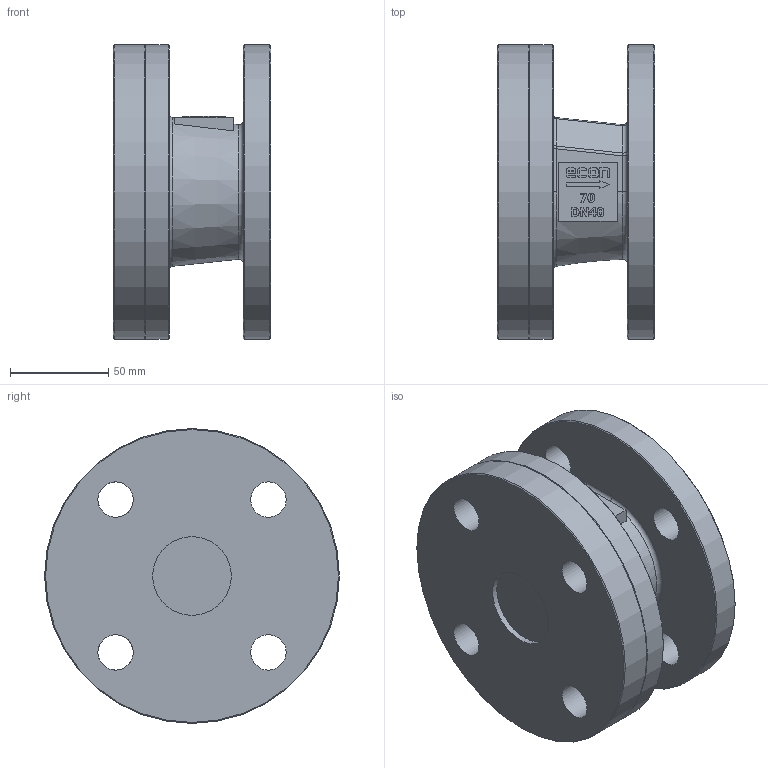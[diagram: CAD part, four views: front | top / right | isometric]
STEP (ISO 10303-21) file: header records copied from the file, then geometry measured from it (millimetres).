
FILE_DESCRIPTION(/* description */ ('Eriks item no: 13374489'),/* implementation_level */ '2;1');
FILE_NAME(/* name */ 'L:\DATA\ENG\Inventor\Econ 3D modellen\terugslagklep\70NGY\70NGY-DN40-PN16.stp',/* time_stamp */ '2023-12-05T08:40:13+01:00',/* author */ ('roger.thijssen'),/* organization */ (''),/* preprocessor_version */ 'ST-DEVELOPER v18',/* originating_system */ 'Autodesk Inventor 2020',/* authorisation */ '');
FILE_SCHEMA (('CONFIG_CONTROL_DESIGN'));
Length unit declared in the file: millimetre
Products named in the file (1): Check valve, 70NGY-DN40-PN16
Bounding box: 80 x 150 x 150 mm (x, y, z)
Volume: 866603.2 mm3; surface area: 96749.2 mm2
Topology: 1 solids, 1 shells, 202 faces, 525 edges, 346 vertices
Faces by surface type: plane 113, cylinder 40, bspline 40, cone 7, torus 2
Full cylindrical faces by diameter (mm): 18 x8, 40 x2, 150 x3
Entity records: 6686 total; most frequent: CARTESIAN_POINT 1756, ORIENTED_EDGE 1050, DIRECTION 900, EDGE_CURVE 525, LINE 346, VECTOR 346, VERTEX_POINT 346, AXIS2_PLACEMENT_3D 277
